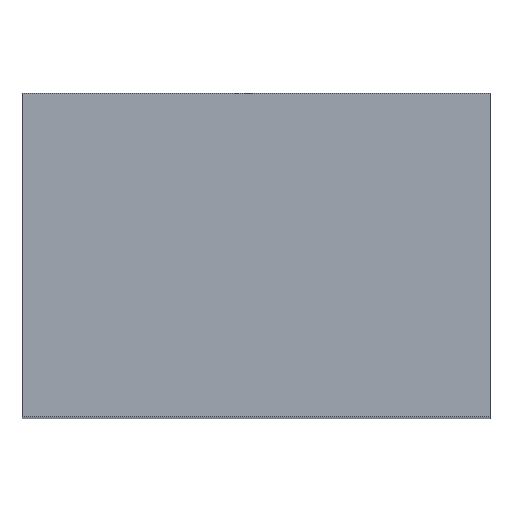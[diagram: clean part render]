
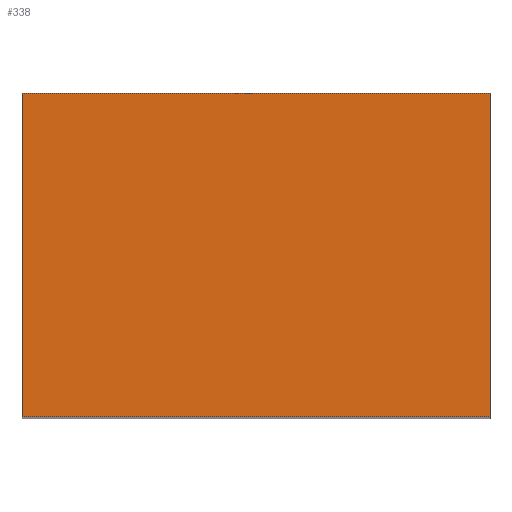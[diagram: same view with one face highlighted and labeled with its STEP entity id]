
A CAD part, top view. The second image highlights one B-rep face of the part: STEP entity #338.
In plain terms, the highlighted planar face has unit normal (0, 0, 1).
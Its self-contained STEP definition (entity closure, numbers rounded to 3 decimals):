
#24 = VERTEX_POINT('',#25);
#25 = CARTESIAN_POINT('',(-42.307,1.45,16.3));
#32 = PLANE('',#33);
#33 = AXIS2_PLACEMENT_3D('',#34,#35,#36);
#34 = CARTESIAN_POINT('',(-42.307,1.45,13.1));
#35 = DIRECTION('',(1.,0.,-0.));
#36 = DIRECTION('',(0.,0.,1.));
#44 = PLANE('',#45);
#45 = AXIS2_PLACEMENT_3D('',#46,#47,#48);
#46 = CARTESIAN_POINT('',(-42.307,1.45,13.1));
#47 = DIRECTION('',(-0.,1.,0.));
#48 = DIRECTION('',(0.,0.,1.));
#85 = VERTEX_POINT('',#86);
#86 = CARTESIAN_POINT('',(-42.307,2.45,16.3
    ));
#100 = PLANE('',#101);
#101 = AXIS2_PLACEMENT_3D('',#102,#103,#104);
#102 = CARTESIAN_POINT('',(-42.307,2.45,13.1
    ));
#103 = DIRECTION('',(-0.,1.,0.));
#104 = DIRECTION('',(0.,0.,1.));
#112 = EDGE_CURVE('',#24,#85,#113,.T.);
#113 = SURFACE_CURVE('',#114,(#118,#125),.PCURVE_S1.);
#114 = LINE('',#115,#116);
#115 = CARTESIAN_POINT('',(-42.307,1.45,16.3));
#116 = VECTOR('',#117,1.);
#117 = DIRECTION('',(-0.,1.,0.));
#118 = PCURVE('',#32,#119);
#119 = DEFINITIONAL_REPRESENTATION('',(#120),#124);
#120 = LINE('',#121,#122);
#121 = CARTESIAN_POINT('',(3.2,0.));
#122 = VECTOR('',#123,1.);
#123 = DIRECTION('',(0.,-1.));
#124 = ( GEOMETRIC_REPRESENTATION_CONTEXT(2) 
PARAMETRIC_REPRESENTATION_CONTEXT() REPRESENTATION_CONTEXT('2D SPACE',''
  ) );
#125 = PCURVE('',#126,#131);
#126 = PLANE('',#127);
#127 = AXIS2_PLACEMENT_3D('',#128,#129,#130);
#128 = CARTESIAN_POINT('',(-42.307,1.45,16.3));
#129 = DIRECTION('',(0.,0.,1.));
#130 = DIRECTION('',(1.,0.,-0.));
#131 = DEFINITIONAL_REPRESENTATION('',(#132),#136);
#132 = LINE('',#133,#134);
#133 = CARTESIAN_POINT('',(0.,0.));
#134 = VECTOR('',#135,1.);
#135 = DIRECTION('',(0.,1.));
#136 = ( GEOMETRIC_REPRESENTATION_CONTEXT(2) 
PARAMETRIC_REPRESENTATION_CONTEXT() REPRESENTATION_CONTEXT('2D SPACE',''
  ) );
#144 = VERTEX_POINT('',#145);
#145 = CARTESIAN_POINT('',(-40.86,1.45,16.3));
#152 = PLANE('',#153);
#153 = AXIS2_PLACEMENT_3D('',#154,#155,#156);
#154 = CARTESIAN_POINT('',(-40.86,1.45,13.1));
#155 = DIRECTION('',(1.,0.,-0.));
#156 = DIRECTION('',(0.,0.,1.));
#195 = VERTEX_POINT('',#196);
#196 = CARTESIAN_POINT('',(-40.86,2.45,16.3));
#217 = EDGE_CURVE('',#144,#195,#218,.T.);
#218 = SURFACE_CURVE('',#219,(#223,#230),.PCURVE_S1.);
#219 = LINE('',#220,#221);
#220 = CARTESIAN_POINT('',(-40.86,1.45,16.3));
#221 = VECTOR('',#222,1.);
#222 = DIRECTION('',(-0.,1.,0.));
#223 = PCURVE('',#152,#224);
#224 = DEFINITIONAL_REPRESENTATION('',(#225),#229);
#225 = LINE('',#226,#227);
#226 = CARTESIAN_POINT('',(3.2,0.));
#227 = VECTOR('',#228,1.);
#228 = DIRECTION('',(0.,-1.));
#229 = ( GEOMETRIC_REPRESENTATION_CONTEXT(2) 
PARAMETRIC_REPRESENTATION_CONTEXT() REPRESENTATION_CONTEXT('2D SPACE',''
  ) );
#230 = PCURVE('',#126,#231);
#231 = DEFINITIONAL_REPRESENTATION('',(#232),#236);
#232 = LINE('',#233,#234);
#233 = CARTESIAN_POINT('',(1.447,0.));
#234 = VECTOR('',#235,1.);
#235 = DIRECTION('',(0.,1.));
#236 = ( GEOMETRIC_REPRESENTATION_CONTEXT(2) 
PARAMETRIC_REPRESENTATION_CONTEXT() REPRESENTATION_CONTEXT('2D SPACE',''
  ) );
#263 = EDGE_CURVE('',#24,#144,#264,.T.);
#264 = SURFACE_CURVE('',#265,(#269,#276),.PCURVE_S1.);
#265 = LINE('',#266,#267);
#266 = CARTESIAN_POINT('',(-42.307,1.45,16.3));
#267 = VECTOR('',#268,1.);
#268 = DIRECTION('',(1.,0.,-0.));
#269 = PCURVE('',#44,#270);
#270 = DEFINITIONAL_REPRESENTATION('',(#271),#275);
#271 = LINE('',#272,#273);
#272 = CARTESIAN_POINT('',(3.2,0.));
#273 = VECTOR('',#274,1.);
#274 = DIRECTION('',(0.,1.));
#275 = ( GEOMETRIC_REPRESENTATION_CONTEXT(2) 
PARAMETRIC_REPRESENTATION_CONTEXT() REPRESENTATION_CONTEXT('2D SPACE',''
  ) );
#276 = PCURVE('',#126,#277);
#277 = DEFINITIONAL_REPRESENTATION('',(#278),#282);
#278 = LINE('',#279,#280);
#279 = CARTESIAN_POINT('',(0.,0.));
#280 = VECTOR('',#281,1.);
#281 = DIRECTION('',(1.,0.));
#282 = ( GEOMETRIC_REPRESENTATION_CONTEXT(2) 
PARAMETRIC_REPRESENTATION_CONTEXT() REPRESENTATION_CONTEXT('2D SPACE',''
  ) );
#310 = EDGE_CURVE('',#85,#195,#311,.T.);
#311 = SURFACE_CURVE('',#312,(#316,#323),.PCURVE_S1.);
#312 = LINE('',#313,#314);
#313 = CARTESIAN_POINT('',(-42.307,2.45,
    16.3));
#314 = VECTOR('',#315,1.);
#315 = DIRECTION('',(1.,0.,-0.));
#316 = PCURVE('',#100,#317);
#317 = DEFINITIONAL_REPRESENTATION('',(#318),#322);
#318 = LINE('',#319,#320);
#319 = CARTESIAN_POINT('',(3.2,0.));
#320 = VECTOR('',#321,1.);
#321 = DIRECTION('',(0.,1.));
#322 = ( GEOMETRIC_REPRESENTATION_CONTEXT(2) 
PARAMETRIC_REPRESENTATION_CONTEXT() REPRESENTATION_CONTEXT('2D SPACE',''
  ) );
#323 = PCURVE('',#126,#324);
#324 = DEFINITIONAL_REPRESENTATION('',(#325),#329);
#325 = LINE('',#326,#327);
#326 = CARTESIAN_POINT('',(0.,1.));
#327 = VECTOR('',#328,1.);
#328 = DIRECTION('',(1.,0.));
#329 = ( GEOMETRIC_REPRESENTATION_CONTEXT(2) 
PARAMETRIC_REPRESENTATION_CONTEXT() REPRESENTATION_CONTEXT('2D SPACE',''
  ) );
#338 = ADVANCED_FACE('',(#339),#126,.T.);
#339 = FACE_BOUND('',#340,.T.);
#340 = EDGE_LOOP('',(#341,#342,#343,#344));
#341 = ORIENTED_EDGE('',*,*,#112,.F.);
#342 = ORIENTED_EDGE('',*,*,#263,.T.);
#343 = ORIENTED_EDGE('',*,*,#217,.T.);
#344 = ORIENTED_EDGE('',*,*,#310,.F.);
